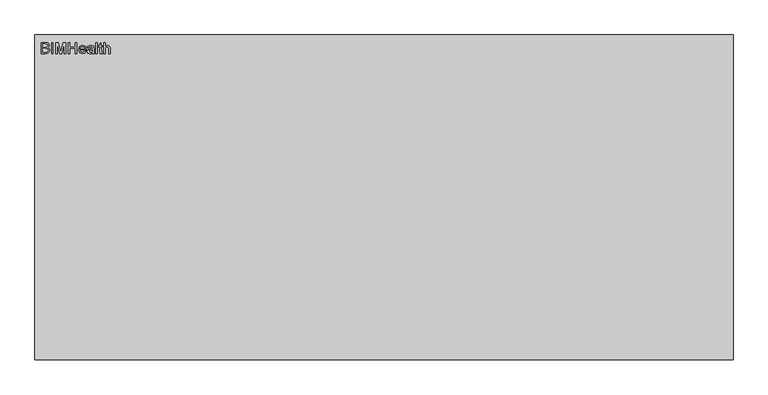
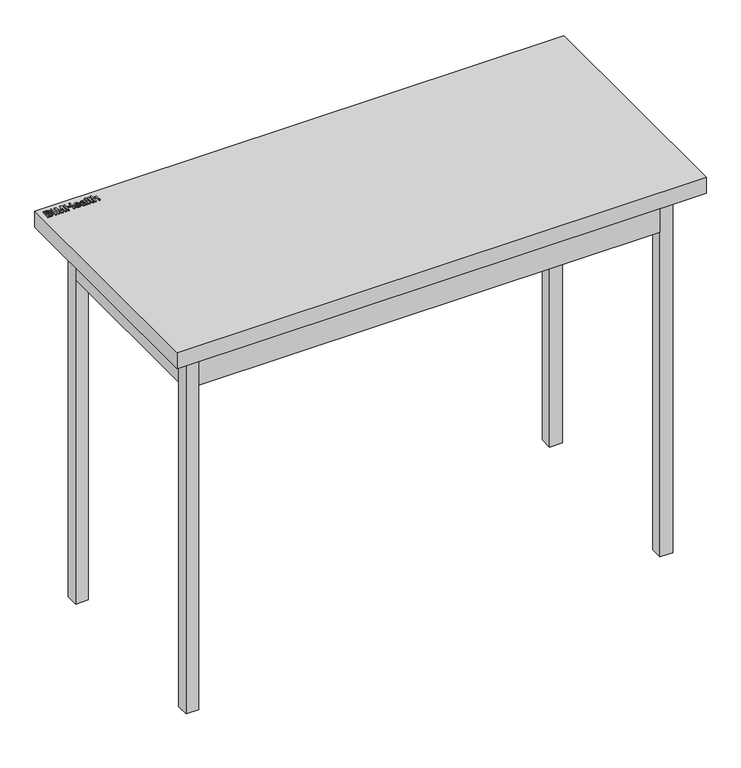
"""IFC4 building model written with IfcOpenShell, lengths in millimetres: furniture geometry, BIMHealth-Desk_Consultant_Metal-LOD2A-v1 : BIMHealth-Desk_Consultant_Metal-LOD2A-v1."""

from ifc_helpers import new_model, si_unit, frame, origin, origin_with_axes, place, context, project, spatial, polyline, outline, extrude, source, transform, mapped, element, save


def furniture_c6e90a8e(model_context):
    return source(origin(), model_context, "Body", "SweptSolid", [
        extrude(outline(polyline([(50.0, -80.0), (50.0, -50.0), (80.0, -50.0), (80.0, -80.0), (50.0, -80.0)])), origin_with_axes(), (0.0, 0.0, 1.0), 910.0),
        extrude(outline(polyline([(1200.0, -80.0), (1170.0, -80.0), (1170.0, -50.0), (1200.0, -50.0), (1200.0, -80.0)])), origin_with_axes(), (0.0, 0.0, 1.0), 910.0),
        extrude(outline(polyline([(50.0, -502.0), (80.0, -502.0), (80.0, -532.0), (50.0, -532.0), (50.0, -502.0)])), origin_with_axes(), (0.0, 0.0, 1.0), 910.0),
        extrude(outline(polyline([(1170.0, -65.0), (80.0, -65.0), (80.0, -50.0), (1170.0, -50.0), (1170.0, -65.0)])), frame((0.0, 0.0, 810.0), z_axis=(0.0, 0.0, 1.0), x_axis=(1.0, 0.0, 0.0)), (0.0, 0.0, 1.0), 100.0),
        extrude(outline(polyline([(1170.0, -517.0), (1170.0, -532.0), (80.0, -532.0), (80.0, -517.0), (1170.0, -517.0)])), frame((0.0, 0.0, 810.0), z_axis=(0.0, 0.0, 1.0), x_axis=(1.0, 0.0, 0.0)), (0.0, 0.0, 1.0), 100.0),
        extrude(outline(polyline([(50.0, -502.0), (50.0, -80.0), (65.0, -80.0), (65.0, -502.0), (50.0, -502.0)])), frame((0.0, 0.0, 810.0), z_axis=(0.0, 0.0, 1.0), x_axis=(1.0, 0.0, 0.0)), (0.0, 0.0, 1.0), 100.0),
        extrude(outline(polyline([(1200.0, -502.0), (1185.0, -502.0), (1185.0, -80.0), (1200.0, -80.0), (1200.0, -502.0)])), frame((0.0, 0.0, 810.0), z_axis=(0.0, 0.0, 1.0), x_axis=(1.0, 0.0, 0.0)), (0.0, 0.0, 1.0), 100.0),
        extrude(outline(polyline([(11.3672628, -33.4729978), (11.3672628, -13.7806901), (18.8816859, -13.7806901), (22.5619743, -14.360017), (24.7350513, -16.141267), (25.521109, -18.6604978), (24.8600513, -20.9609786), (22.8624551, -22.703767), (25.2879359, -24.5403055), (26.1364936, -27.6028055), (25.5571666, -30.2494401), (24.1220705, -32.1340555), (21.9802436, -33.1340555), (18.8239936, -33.4729978), (11.3672628, -33.4729978)]), holes=[polyline([(13.8288013, -21.7806901), (18.3239936, -21.7806901), (20.9489936, -21.5691517), (22.5283205, -20.658094), (23.0595705, -19.0547286), (22.5643782, -17.4489594), (21.146109, -16.4994401), (17.9826474, -16.2422286), (13.8288013, -16.2422286), (13.8288013, -21.7806901)]), polyline([(13.8288013, -31.0114594), (18.8768782, -31.0114594), (20.7038013, -30.9153055), (22.2494743, -30.3792478), (23.6749551, -27.626844), (23.2038013, -25.7133824), (21.677359, -24.5715555), (18.6364936, -24.2422286), (13.8288013, -24.2422286), (13.8288013, -31.0114594)])]), frame((0.0, 0.0, 950.0), z_axis=(0.0, 0.0, 1.0), x_axis=(1.0, 0.0, 0.0)), (0.0, 0.0, 1.0), 2.5),
        extrude(outline(polyline([(29.8288013, -33.4729978), (29.8288013, -13.7806901), (32.2903397, -13.7806901), (32.2903397, -33.4729978), (29.8288013, -33.4729978)])), frame((0.0, 0.0, 950.0), z_axis=(0.0, 0.0, 1.0), x_axis=(1.0, 0.0, 0.0)), (0.0, 0.0, 1.0), 2.5),
        extrude(outline(polyline([(37.2134166, -33.4729978), (37.2134166, -13.7806901), (41.4345705, -13.7806901), (45.473032, -27.6604978), (46.2903397, -30.5595363), (47.1701474, -27.4201132), (51.1316859, -13.7806901), (55.3672628, -13.7806901), (55.3672628, -33.4729978), (52.9057243, -33.4729978), (52.9057243, -16.2422286), (47.958609, -33.4729978), (44.6268782, -33.4729978), (39.6749551, -16.2422286), (39.6749551, -33.4729978), (37.2134166, -33.4729978)])), frame((0.0, 0.0, 950.0), z_axis=(0.0, 0.0, 1.0), x_axis=(1.0, 0.0, 0.0)), (0.0, 0.0, 1.0), 2.5),
        extrude(outline(polyline([(59.6749551, -33.4729978), (59.6749551, -13.7806901), (62.1364936, -13.7806901), (62.1364936, -21.7806901), (72.598032, -21.7806901), (72.598032, -13.7806901), (75.0595705, -13.7806901), (75.0595705, -33.4729978), (72.598032, -33.4729978), (72.598032, -24.2422286), (62.1364936, -24.2422286), (62.1364936, -33.4729978), (59.6749551, -33.4729978)])), frame((0.0, 0.0, 950.0), z_axis=(0.0, 0.0, 1.0), x_axis=(1.0, 0.0, 0.0)), (0.0, 0.0, 1.0), 2.5),
        extrude(outline(polyline([(89.1845705, -29.1653055), (91.598032, -29.4729978), (89.3408205, -32.6508824), (85.1364936, -33.7806901), (80.0259166, -31.8311709), (78.1364936, -26.3624209), (80.0451474, -20.7133824), (84.9970705, -18.703767), (89.8071666, -20.7085747), (91.6749551, -26.3479978), (80.598032, -27.0114594), (82.0138974, -30.2085747), (85.1845705, -31.3191517), (87.598032, -30.8047286), (89.1845705, -29.1653055)]), holes=[polyline([(80.598032, -24.5499209), (89.2134166, -24.5499209), (88.2278397, -22.3191517), (84.9874551, -21.1653055), (81.9562051, -22.0859786), (80.598032, -24.5499209)])]), frame((0.0, 0.0, 950.0), z_axis=(0.0, 0.0, 1.0), x_axis=(1.0, 0.0, 0.0)), (0.0, 0.0, 1.0), 2.5),
        extrude(outline(polyline([(103.3672628, -31.626844), (100.9802436, -33.2951132), (98.3432243, -33.7806901), (94.7687051, -32.6124209), (93.521109, -29.626844), (93.9922628, -27.6797286), (95.2302436, -26.266267), (96.9538013, -25.4585747), (99.083609, -25.0883824), (103.3528397, -24.2422286), (102.6893782, -21.876844), (99.9682243, -21.1653055), (97.4778397, -21.6388632), (96.2903397, -23.3191517), (93.8288013, -23.0114594), (94.8937051, -20.6076132), (97.0379359, -19.1989594), (100.285532, -18.703767), (103.2687051, -19.141267), (104.9538013, -20.2398247), (105.708609, -21.9104978), (105.8288013, -24.064344), (105.8288013, -27.126844), (105.9538013, -31.4032863), (106.4441859, -33.4729978), (103.9826474, -33.4729978), (103.3672628, -31.626844)]), holes=[polyline([(103.3600513, -27.0523247), (99.396109, -27.4585747), (97.2783205, -27.8576132), (98.8672628, -31.3191517), (101.3576474, -30.7302094), (102.9634166, -29.3047286), (103.3600513, -27.0523247)])]), frame((0.0, 0.0, 950.0), z_axis=(0.0, 0.0, 1.0), x_axis=(1.0, 0.0, 0.0)), (0.0, 0.0, 1.0), 2.5),
        extrude(outline(polyline([(109.2134166, -33.4729978), (109.2134166, -13.7806901), (111.6749551, -13.7806901), (111.6749551, -33.4729978), (109.2134166, -33.4729978)])), frame((0.0, 0.0, 950.0), z_axis=(0.0, 0.0, 1.0), x_axis=(1.0, 0.0, 0.0)), (0.0, 0.0, 1.0), 2.5),
        extrude(outline(polyline([(119.3672628, -30.4273247), (120.9057243, -33.5451132), (119.0643782, -33.7806901), (117.0018782, -33.3720363), (115.6749551, -29.5066517), (115.6749551, -21.4729978), (113.8288013, -21.4729978), (113.8288013, -19.0114594), (115.6749551, -19.0114594), (115.6749551, -15.4970363), (118.1364936, -14.0499209), (118.1364936, -19.0114594), (120.598032, -19.0114594), (120.598032, -21.4729978), (118.1364936, -21.4729978), (119.3672628, -30.4273247)])), frame((0.0, 0.0, 950.0), z_axis=(0.0, 0.0, 1.0), x_axis=(1.0, 0.0, 0.0)), (0.0, 0.0, 1.0), 2.5),
        extrude(outline(polyline([(123.0595705, -33.4729978), (123.0595705, -13.7806901), (125.521109, -13.7806901), (125.521109, -21.0210747), (129.8047628, -18.703767), (132.5691859, -19.3359786), (134.2470705, -21.0835747), (134.7518782, -24.3191517), (134.7518782, -33.4729978), (132.2903397, -33.4729978), (132.2903397, -24.5739594), (131.5066859, -21.9778055), (129.285532, -21.1653055), (127.2687051, -21.7133824), (125.9225513, -23.1989594), (125.521109, -25.7903055), (125.521109, -33.4729978), (123.0595705, -33.4729978)])), frame((0.0, 0.0, 950.0), z_axis=(0.0, 0.0, 1.0), x_axis=(1.0, 0.0, 0.0)), (0.0, 0.0, 1.0), 2.5),
        extrude(outline(polyline([(1200.0, -502.0), (1200.0, -532.0), (1170.0, -532.0), (1170.0, -502.0), (1200.0, -502.0)])), origin_with_axes(), (0.0, 0.0, 1.0), 910.0),
        extrude(outline(polyline([(1250.0, 0.0), (1250.0, -582.0), (0.0, -582.0), (0.0, 0.0), (1250.0, 0.0)])), frame((0.0, 0.0, 910.0), z_axis=(0.0, 0.0, 1.0), x_axis=(1.0, 0.0, 0.0)), (0.0, 0.0, 1.0), 40.0),
    ])


if __name__ == "__main__":
    model = new_model("IFC4")
    model_context = context("Model", 3, world=origin())
    ifc_project = project(units=[si_unit("LENGTHUNIT", "METRE", prefix="MILLI")], contexts=[model_context])
    site = spatial("IfcSite", under=ifc_project)
    building = spatial("IfcBuilding", under=site)
    placement = place(None, origin())
    furniture_shape = furniture_c6e90a8e(model_context)
    element("IfcFurniture", 1, ObjectType="BIMHealth-Desk_Consultant_Metal-LOD2A-v1 : BIMHealth-Desk_Consultant_Metal-LOD2A-v1", at=placement, inside=building, context=model_context, shape_type="MappedRepresentation", body=[
        mapped(furniture_shape, transform((0.0, 0.0, 0.0), x_axis=(1.0, 0.0, 0.0), y_axis=(0.0, 1.0, 0.0), z_axis=(0.0, 0.0, 1.0))),
    ])
    save(model, "model.ifc")
